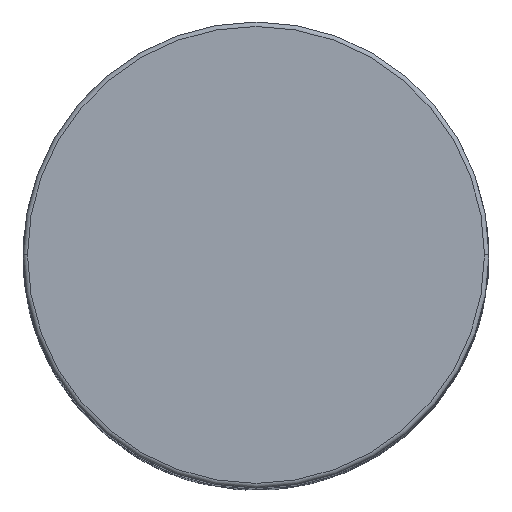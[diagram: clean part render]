
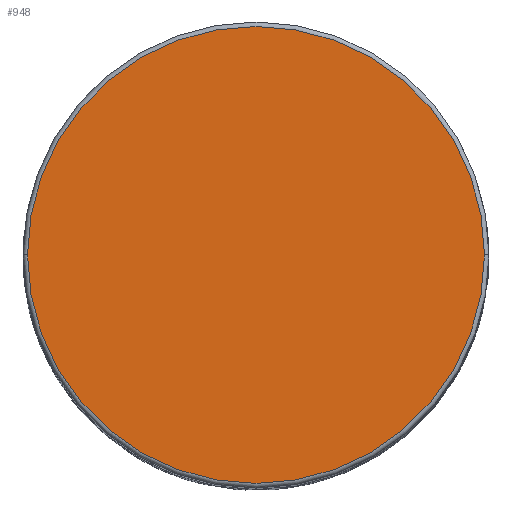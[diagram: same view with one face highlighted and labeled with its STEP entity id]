
A CAD part, top view. The second image highlights one B-rep face of the part: STEP entity #948.
In plain terms, the highlighted planar face has unit normal (0, 0, 1).
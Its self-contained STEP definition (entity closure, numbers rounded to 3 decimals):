
#51 = CARTESIAN_POINT ( 'NONE',  ( 0., 0., 91. ) ) ;
#209 = DIRECTION ( 'NONE',  ( 1., 0., 0. ) ) ;
#482 = PLANE ( 'NONE',  #617 ) ;
#617 = AXIS2_PLACEMENT_3D ( 'NONE', #51, #3643, #4461 ) ;
#654 = VERTEX_POINT ( 'NONE', #2074 ) ;
#764 = EDGE_CURVE ( 'NONE', #846, #654, #3810, .T. ) ;
#846 = VERTEX_POINT ( 'NONE', #1912 ) ;
#948 = ADVANCED_FACE ( 'NONE', ( #2408 ), #482, .T. ) ;
#1912 = CARTESIAN_POINT ( 'NONE',  ( 25.5, 0., 91. ) ) ;
#2059 = DIRECTION ( 'NONE',  ( 0., 0., 1. ) ) ;
#2074 = CARTESIAN_POINT ( 'NONE',  ( -25.5, 0., 91. ) ) ;
#2408 = FACE_OUTER_BOUND ( 'NONE', #4044, .T. ) ;
#2427 = CARTESIAN_POINT ( 'NONE',  ( 0., 0., 91. ) ) ;
#2831 = ORIENTED_EDGE ( 'NONE', *, *, #4045, .T. ) ;
#3266 = CARTESIAN_POINT ( 'NONE',  ( 0., 0., 91. ) ) ;
#3275 = DIRECTION ( 'NONE',  ( 1., 0., 0. ) ) ;
#3551 = AXIS2_PLACEMENT_3D ( 'NONE', #2427, #2059, #3275 ) ;
#3643 = DIRECTION ( 'NONE',  ( 0., 0., 1. ) ) ;
#3810 = CIRCLE ( 'NONE', #4390, 25.5 ) ;
#4044 = EDGE_LOOP ( 'NONE', ( #4315, #2831 ) ) ;
#4045 = EDGE_CURVE ( 'NONE', #654, #846, #5128, .T. ) ;
#4315 = ORIENTED_EDGE ( 'NONE', *, *, #764, .T. ) ;
#4390 = AXIS2_PLACEMENT_3D ( 'NONE', #3266, #4937, #209 ) ;
#4461 = DIRECTION ( 'NONE',  ( 1., 0., 0. ) ) ;
#4937 = DIRECTION ( 'NONE',  ( 0., 0., 1. ) ) ;
#5128 = CIRCLE ( 'NONE', #3551, 25.5 ) ;
